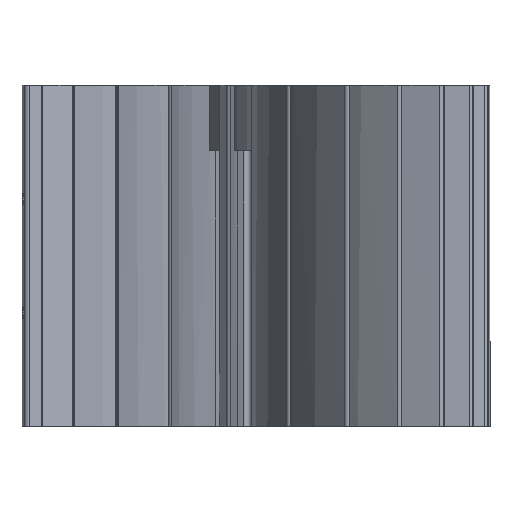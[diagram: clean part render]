
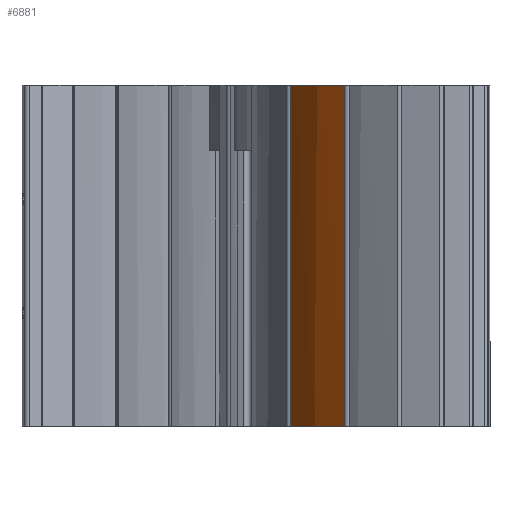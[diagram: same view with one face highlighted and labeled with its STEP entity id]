
A CAD part, top view. The second image highlights one B-rep face of the part: STEP entity #6881.
In plain terms, the highlighted cylindrical face has radius 76.063 mm (diameter 152.125 mm), a partial arc.
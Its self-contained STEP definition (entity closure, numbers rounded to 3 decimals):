
#534=CARTESIAN_POINT('',(78.221,0.,2.291));
#535=DIRECTION('',(0.,1.,0.));
#536=DIRECTION('',(-0.966,0.,0.259));
#537=AXIS2_PLACEMENT_3D('',#534,#535,#536);
#1135=CARTESIAN_POINT('',(78.221,86.9,2.291));
#1136=DIRECTION('',(0.,1.,0.));
#1137=DIRECTION('',(-0.955,0.,0.297));
#1138=AXIS2_PLACEMENT_3D('',#1135,#1136,#1137);
#2126=DIRECTION('',(0.,-1.,0.));
#2127=VECTOR('',#2126,86.9);
#2128=CARTESIAN_POINT('',(22.667,86.9,54.246));
#2129=LINE('',#2128,#2127);
#2130=DIRECTION('',(0.,-1.,0.));
#2131=VECTOR('',#2130,70.2);
#2132=CARTESIAN_POINT('',(4.75,70.2,21.978));
#2133=LINE('',#2132,#2131);
#2134=CARTESIAN_POINT('',(78.221,70.2,2.291));
#2135=DIRECTION('',(0.,1.,0.));
#2136=DIRECTION('',(-0.966,0.,0.259));
#2137=AXIS2_PLACEMENT_3D('',#2134,#2135,#2136);
#2139=DIRECTION('',(0.,1.,0.));
#2140=VECTOR('',#2139,16.7);
#2141=CARTESIAN_POINT('',(5.59,70.2,24.88));
#2142=LINE('',#2141,#2140);
#3487=CARTESIAN_POINT('',(4.75,0.,21.978));
#3489=VERTEX_POINT('',#3487);
#3642=CARTESIAN_POINT('',(5.59,86.9,24.88));
#3644=VERTEX_POINT('',#3642);
#3730=CARTESIAN_POINT('',(5.59,70.2,24.88));
#3732=VERTEX_POINT('',#3730);
#3807=CARTESIAN_POINT('',(4.75,70.2,21.978));
#3809=VERTEX_POINT('',#3807);
#3971=CARTESIAN_POINT('',(22.667,0.,54.246));
#3973=VERTEX_POINT('',#3971);
#3974=CARTESIAN_POINT('',(22.667,86.9,54.246));
#3975=VERTEX_POINT('',#3974);
#6867=CARTESIAN_POINT('',(78.221,86.9,2.291));
#6868=DIRECTION('',(0.,1.,0.));
#6869=DIRECTION('',(-0.259,0.,-0.966));
#6870=AXIS2_PLACEMENT_3D('',#6867,#6868,#6869);
#6871=CYLINDRICAL_SURFACE('',#6870,76.063);
#6873=ORIENTED_EDGE('',*,*,#6872,.T.);
#6874=ORIENTED_EDGE('',*,*,#4757,.F.);
#6875=ORIENTED_EDGE('',*,*,#6860,.F.);
#6876=ORIENTED_EDGE('',*,*,#4916,.T.);
#6877=ORIENTED_EDGE('',*,*,#5334,.T.);
#6878=ORIENTED_EDGE('',*,*,#5752,.T.);
#6879=EDGE_LOOP('',(#6873,#6874,#6875,#6876,#6877,#6878));
#6880=FACE_OUTER_BOUND('',#6879,.F.);
#6881=ADVANCED_FACE('',(#6880),#6871,.T.);
#538=CIRCLE('',#537,76.063);
#1139=CIRCLE('',#1138,76.063);
#2138=CIRCLE('',#2137,76.063);
#4757=EDGE_CURVE('',#3489,#3973,#538,.T.);
#4916=EDGE_CURVE('',#3809,#3732,#2138,.T.);
#5334=EDGE_CURVE('',#3732,#3644,#2142,.T.);
#5752=EDGE_CURVE('',#3644,#3975,#1139,.T.);
#6860=EDGE_CURVE('',#3809,#3489,#2133,.T.);
#6872=EDGE_CURVE('',#3975,#3973,#2129,.T.);
